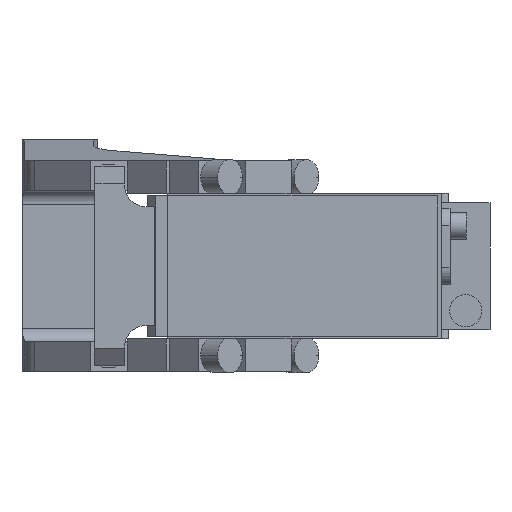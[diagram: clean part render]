
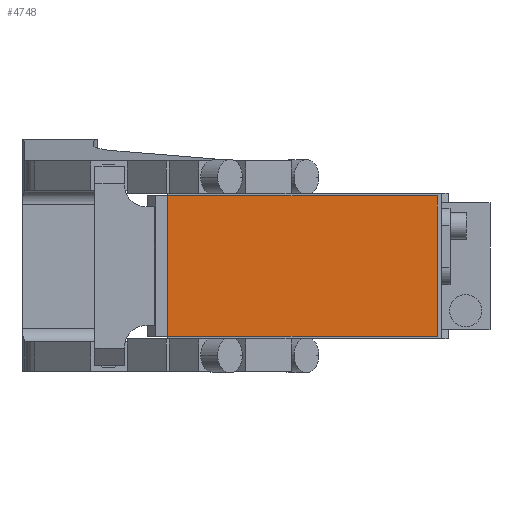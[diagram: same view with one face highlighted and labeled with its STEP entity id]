
A CAD part, front view. The second image highlights one B-rep face of the part: STEP entity #4748.
In plain terms, the highlighted planar face has unit normal (0, -1, 0).
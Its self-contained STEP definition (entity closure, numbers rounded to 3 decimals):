
#494 = CARTESIAN_POINT ( 'NONE',  ( 0., -286.5, 0. ) ) ;
#1287 = EDGE_CURVE ( 'NONE', #1584, #1661, #1768, .T. ) ;
#1328 = DIRECTION ( 'NONE',  ( 0., 0., 1. ) ) ;
#1584 = VERTEX_POINT ( 'NONE', #10705 ) ;
#1661 = VERTEX_POINT ( 'NONE', #2743 ) ;
#1768 = LINE ( 'NONE', #9674, #4593 ) ;
#1951 = CARTESIAN_POINT ( 'NONE',  ( 81., -286.5, 26. ) ) ;
#2407 = EDGE_CURVE ( 'NONE', #12996, #7908, #11217, .T. ) ;
#2743 = CARTESIAN_POINT ( 'NONE',  ( -19., -286.5, -26. ) ) ;
#3154 = EDGE_LOOP ( 'NONE', ( #14711, #6617, #8402, #13639 ) ) ;
#3562 = VECTOR ( 'NONE', #4229, 1000. ) ;
#3837 = CARTESIAN_POINT ( 'NONE',  ( 81., -286.5, -26. ) ) ;
#4229 = DIRECTION ( 'NONE',  ( -1., 0., 0. ) ) ;
#4593 = VECTOR ( 'NONE', #6219, 1000. ) ;
#4748 = ADVANCED_FACE ( 'NONE', ( #10974 ), #4860, .T. ) ;
#4860 = PLANE ( 'NONE',  #11574 ) ;
#5172 = DIRECTION ( 'NONE',  ( 0., -1., 0. ) ) ;
#6219 = DIRECTION ( 'NONE',  ( 0., 0., -1. ) ) ;
#6617 = ORIENTED_EDGE ( 'NONE', *, *, #9886, .T. ) ;
#6652 = LINE ( 'NONE', #11302, #13115 ) ;
#7908 = VERTEX_POINT ( 'NONE', #14030 ) ;
#8402 = ORIENTED_EDGE ( 'NONE', *, *, #2407, .T. ) ;
#8884 = VECTOR ( 'NONE', #1328, 1000. ) ;
#9087 = EDGE_CURVE ( 'NONE', #7908, #1584, #9899, .T. ) ;
#9674 = CARTESIAN_POINT ( 'NONE',  ( -19., -286.5, 26. ) ) ;
#9829 = DIRECTION ( 'NONE',  ( 0., 0., -1. ) ) ;
#9886 = EDGE_CURVE ( 'NONE', #1661, #12996, #6652, .T. ) ;
#9899 = LINE ( 'NONE', #14567, #3562 ) ;
#10705 = CARTESIAN_POINT ( 'NONE',  ( -19., -286.5, 26. ) ) ;
#10974 = FACE_OUTER_BOUND ( 'NONE', #3154, .T. ) ;
#11217 = LINE ( 'NONE', #1951, #8884 ) ;
#11302 = CARTESIAN_POINT ( 'NONE',  ( -19., -286.5, -26. ) ) ;
#11574 = AXIS2_PLACEMENT_3D ( 'NONE', #494, #5172, #9829 ) ;
#12598 = DIRECTION ( 'NONE',  ( 1., 0., 0. ) ) ;
#12996 = VERTEX_POINT ( 'NONE', #3837 ) ;
#13115 = VECTOR ( 'NONE', #12598, 1000. ) ;
#13639 = ORIENTED_EDGE ( 'NONE', *, *, #9087, .T. ) ;
#14030 = CARTESIAN_POINT ( 'NONE',  ( 81., -286.5, 26. ) ) ;
#14567 = CARTESIAN_POINT ( 'NONE',  ( -19., -286.5, 26. ) ) ;
#14711 = ORIENTED_EDGE ( 'NONE', *, *, #1287, .T. ) ;
